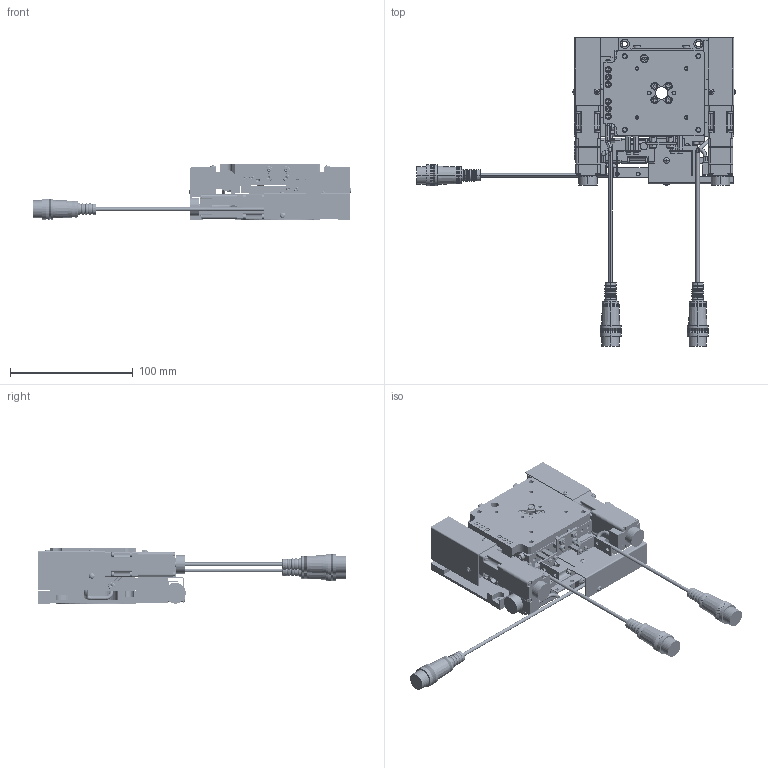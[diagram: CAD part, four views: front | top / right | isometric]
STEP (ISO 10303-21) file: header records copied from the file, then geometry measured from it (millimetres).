
FILE_DESCRIPTION (( 'STEP AP214' ), '1' );
FILE_NAME ('DR113738-0001-000-04.STEP', '2014-02-27T03:00:36', ( '' ), ( '' ), 'SwSTEP 2.0', 'SolidWorks 2011', '' );
FILE_SCHEMA (( 'AUTOMOTIVE_DESIGN' ));
Length unit declared in the file: millimetre
Products named in the file (11): Yﾃｰﾌﾞﾙ; YÃ°ÌÞÙ-Part-1; Xﾃｰﾌﾞﾙ; XÃ°ÌÞÙ-Part-1; 俅偷; 俅偷-Part-1; 回転ﾃｰﾌﾞﾙ; 回転ﾃｰﾌﾞﾙ-Part-1; 運搬治具; 運搬治具-Part-1; DR113738-0001-000-04
Assembly tree (10 placements, depth 3):
  DR113738-0001-000-04
    Yﾃｰﾌﾞﾙ
      YÃ°ÌÞÙ-Part-1
    Xﾃｰﾌﾞﾙ
      XÃ°ÌÞÙ-Part-1
    俅偷
      俅偷-Part-1
    回転ﾃｰﾌﾞﾙ
      回転ﾃｰﾌﾞﾙ-Part-1
    運搬治具
      運搬治具-Part-1
Bounding box: 259.75 x 251.29 x 45 mm (x, y, z)
Volume: 372174.3 mm3; surface area: 155939.1 mm2
Topology: 5 solids, 116 shells, 4120 faces, 9485 edges, 5586 vertices
Faces by surface type: plane 1916, cylinder 1174, cone 890, torus 126, sphere 14
Entity records: 114709 total; most frequent: DIRECTION 21197, CARTESIAN_POINT 19901, ORIENTED_EDGE 18430, EDGE_CURVE 9215, AXIS2_PLACEMENT_3D 7956, VERTEX_POINT 5586, LINE 5285, VECTOR 5285
